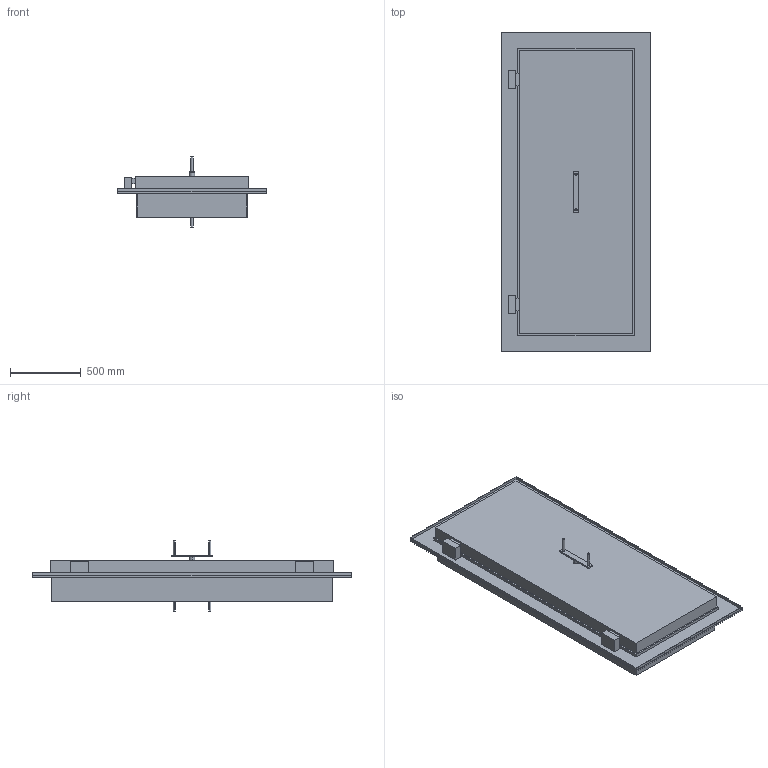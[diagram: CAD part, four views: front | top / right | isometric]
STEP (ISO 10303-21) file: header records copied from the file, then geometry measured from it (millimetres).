
FILE_DESCRIPTION((''),'2;1');
FILE_NAME('51458626','2020-02-28T06:56:46',('ka'),('HUBER SE'),'CREO PARAMETRIC BY PTC INC, 2019224','CREO PARAMETRIC BY PTC INC, 2019224','');
FILE_SCHEMA(('AUTOMOTIVE_DESIGN { 1 0 10303 214 1 1 1 1 }'));
Length unit declared in the file: millimetre
Products named in the file (1): 51458626
Bounding box: 1060 x 2260 x 495 mm (x, y, z)
Volume: 164762875.3 mm3; surface area: 7943245.1 mm2
Topology: 1 solids, 1 shells, 79 faces, 285 edges, 221 vertices
Faces by surface type: plane 67, cylinder 12
Entity records: 4188 total; most frequent: CARTESIAN_POINT 655, DIRECTION 465, ORIENTED_EDGE 368, VECTOR 220, LINE 220, EDGE_CURVE 184, PRESENTATION_STYLE_ASSIGNMENT 132, STYLED_ITEM 132
